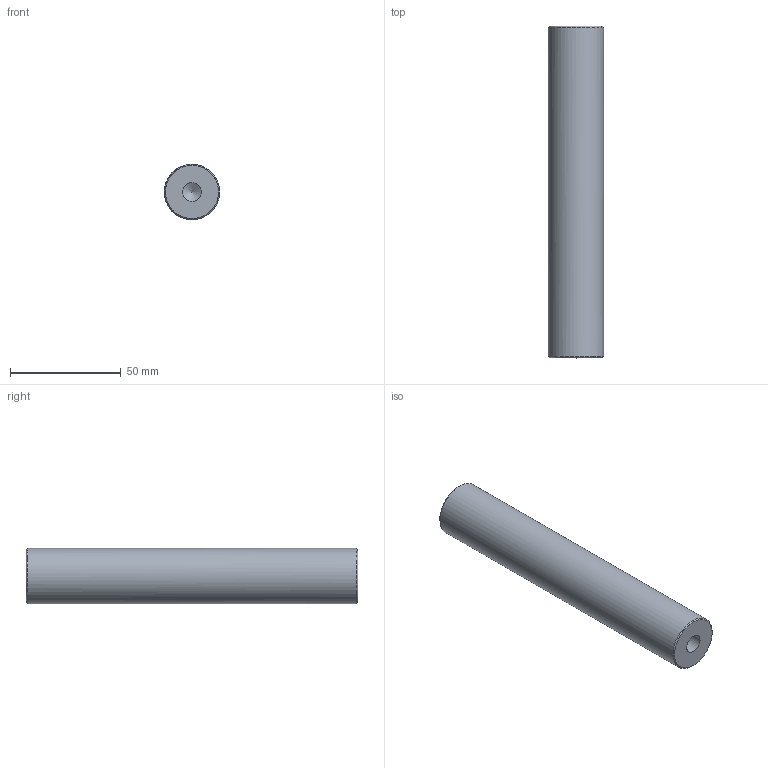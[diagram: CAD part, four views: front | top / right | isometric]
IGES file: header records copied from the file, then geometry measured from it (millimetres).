
Global section: file name: BM22-25D-150L; native system: unknown; preprocessor: unknown; author: unknown; organization: unknown; date: 20231024.141457; units: millimetre
Bounding box: 24.99 x 150 x 25 mm (x, y, z)
Volume: 71908.4 mm3; surface area: 13559.8 mm2
Topology: 1 solids, 1 shells, 9 faces, 21 edges, 14 vertices
Faces by surface type: bspline 9
